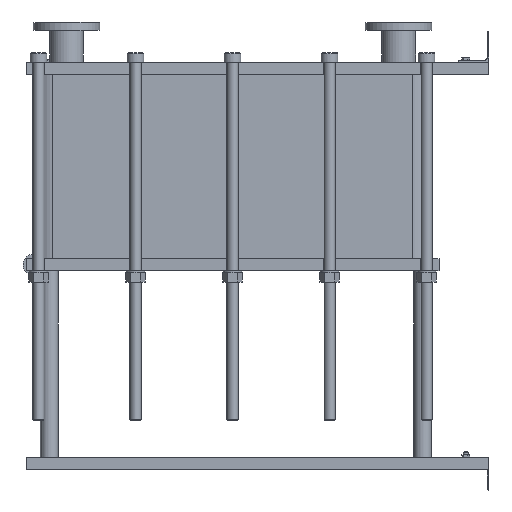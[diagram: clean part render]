
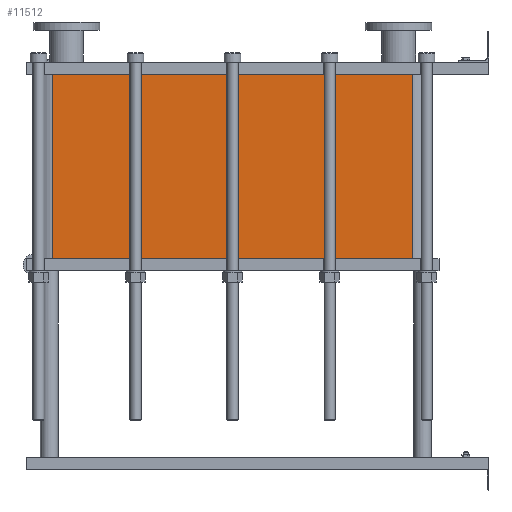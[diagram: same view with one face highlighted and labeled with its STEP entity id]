
A CAD part, left-side view. The second image highlights one B-rep face of the part: STEP entity #11512.
In plain terms, the highlighted planar face has unit normal (-1, 0, 0).
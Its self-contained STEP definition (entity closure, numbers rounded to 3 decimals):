
#1129=LINE('',#23232,#2102);
#1130=LINE('',#23236,#2103);
#1131=LINE('',#23238,#2104);
#1132=LINE('',#23239,#2105);
#2102=VECTOR('',#15887,10.);
#2103=VECTOR('',#15892,10.);
#2104=VECTOR('',#15893,10.);
#2105=VECTOR('',#15894,10.);
#3267=FACE_OUTER_BOUND('',#4093,.T.);
#4093=EDGE_LOOP('',(#10103,#10104,#10105,#10106));
#5642=VERTEX_POINT('',#23229);
#5643=VERTEX_POINT('',#23231);
#5644=VERTEX_POINT('',#23235);
#5645=VERTEX_POINT('',#23237);
#7159=EDGE_CURVE('',#5643,#5642,#1129,.T.);
#7161=EDGE_CURVE('',#5642,#5644,#1130,.T.);
#7162=EDGE_CURVE('',#5645,#5644,#1131,.T.);
#7163=EDGE_CURVE('',#5645,#5643,#1132,.T.);
#10103=ORIENTED_EDGE('',*,*,#7161,.T.);
#10104=ORIENTED_EDGE('',*,*,#7162,.F.);
#10105=ORIENTED_EDGE('',*,*,#7163,.T.);
#10106=ORIENTED_EDGE('',*,*,#7159,.T.);
#10857=PLANE('',#12751);
#11512=ADVANCED_FACE('',(#3267),#10857,.T.);
#12751=AXIS2_PLACEMENT_3D('',#23234,#15890,#15891);
#15887=DIRECTION('',(0.,0.,-1.));
#15890=DIRECTION('center_axis',(-1.,0.,0.));
#15891=DIRECTION('ref_axis',(0.,1.,0.));
#15892=DIRECTION('',(0.,-1.,0.));
#15893=DIRECTION('',(0.,0.,-1.));
#15894=DIRECTION('',(0.,1.,0.));
#23229=CARTESIAN_POINT('',(-200.,1414.,-596.85));
#23231=CARTESIAN_POINT('',(-200.,1414.,0.));
#23232=CARTESIAN_POINT('',(-200.,1414.,0.));
#23234=CARTESIAN_POINT('Origin',(-200.,248.,0.));
#23235=CARTESIAN_POINT('',(-200.,248.,-596.85));
#23236=CARTESIAN_POINT('',(-200.,539.5,-596.85));
#23237=CARTESIAN_POINT('',(-200.,248.,0.));
#23238=CARTESIAN_POINT('',(-200.,248.,0.));
#23239=CARTESIAN_POINT('',(-200.,248.,0.));
